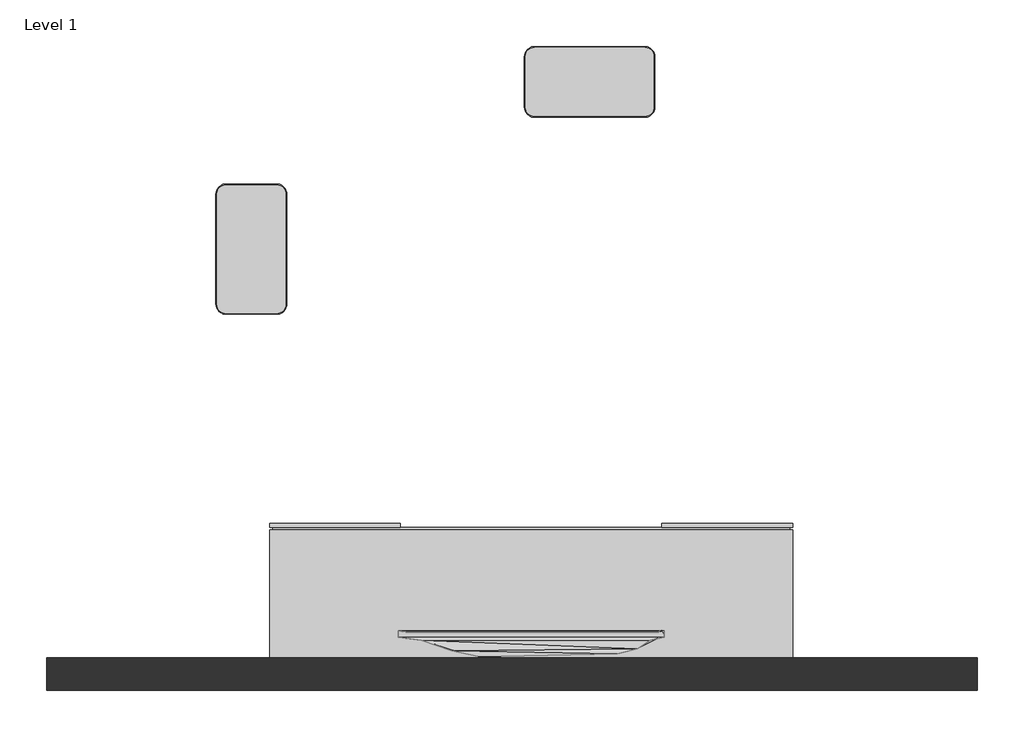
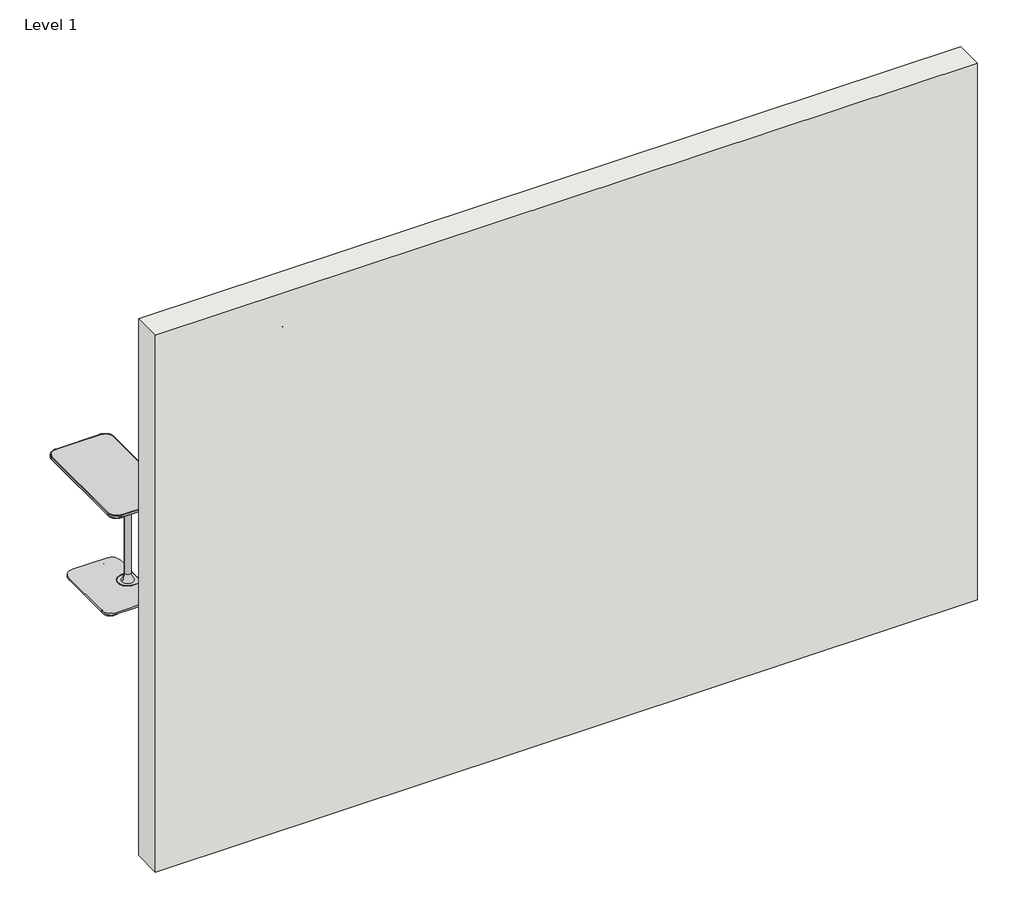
# One storey, incomplete: 4 furniture elements, 1 wall.
"""IFC4 building model written with IfcOpenShell, lengths in millimetres."""

from ifc_helpers import new_model, si_unit, origin, origin_with_axes, place, context, project, spatial, polyline, outline, extrude, transform, mapped, element, save
from components import furniture_b89f0dee, partial_open_96w_metal_base_433a793f, wall_mount_screen_visual_only_2d66c662

model = new_model("IFC4")

# Units and contexts
model_context = context("Model", 3, world=origin())
ifc_project = project(units=[si_unit("LENGTHUNIT", "METRE", prefix="MILLI")], contexts=[model_context])

# Site, building, storey
site = spatial("IfcSite", under=ifc_project)
building = spatial("IfcBuilding", under=site)
storey = spatial("IfcBuildingStorey", under=building, Name="Level 1", Elevation=0.0)

# Furniture
placement = place(None, origin())
furniture_shape = furniture_b89f0dee(model_context)
element("IfcFurniture", 1, ObjectType="Steelcase Coalesse - Lagunitas - Table - Personal (3) : 13D x 24W", at=placement, inside=storey, context=model_context, shape_type="MappedRepresentation", body=[
    mapped(furniture_shape, transform((-39727.2331017, -266989.9134659, 0.0), x_axis=(0.0, 1.0, 0.0), y_axis=(-1.0, 0.0, 0.0), z_axis=(0.0, 0.0, 1.0))),
])
element("IfcFurniture", 2, ObjectType="Steelcase Coalesse - Lagunitas - Table - Personal (3) : 13D x 24W", at=placement, inside=storey, context=model_context, shape_type="MappedRepresentation", body=[
    mapped(furniture_shape, transform((-38149.251924, -266208.4882742, 0.0), x_axis=(1.0, 0.0, 0.0), y_axis=(0.0, 1.0, 0.0), z_axis=(0.0, 0.0, 1.0))),
])
partial_open_96w_metal_base_shape = partial_open_96w_metal_base_433a793f(model_context)
element("IfcFurniture", 3, ObjectType="Steelcase Coalesse - Exponents - Storage - Credenza - 21H : Partial Open - 96W - Metal Base", at=placement, inside=storey, context=model_context, shape_type="MappedRepresentation", body=[
    mapped(partial_open_96w_metal_base_shape, transform((-37202.3581755, -268268.7584357, 0.0), x_axis=(-1.0, 0.0, 0.0), y_axis=(0.0, -1.0, 0.0), z_axis=(0.0, 0.0, 1.0))),
])
wall_mount_screen_visual_only_shape = wall_mount_screen_visual_only_2d66c662(model_context)
element("IfcFurniture", 4, ObjectType="Wall-Mount Screen (Visual Only) : 1.242 m x 0.102 m", at=placement, inside=storey, context=model_context, shape_type="MappedRepresentation", body=[
    mapped(wall_mount_screen_visual_only_shape, transform((-38421.5581755, -268792.3251413, 533.4), x_axis=(-0.9999999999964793, 2.65358979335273e-06, 0.0), y_axis=(-2.65358979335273e-06, -0.9999999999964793, 0.0), z_axis=(0.0, 0.0, 1.0))),
])

# Wall
element("IfcWall", 5, ObjectType="6in", at=placement, inside=storey, context=model_context, shape_type="SweptSolid", body=[
    extrude(outline(polyline([(-36339.4659091, -269049.8090326), (-40682.8659091, -269049.8090326), (-40682.8659091, -268897.4090326), (-36339.4659091, -268897.4090326), (-36339.4659091, -269049.8090326)])), origin_with_axes(), (0.0, 0.0, 1.0), 2997.2),
])

save(model, "model.ifc")
